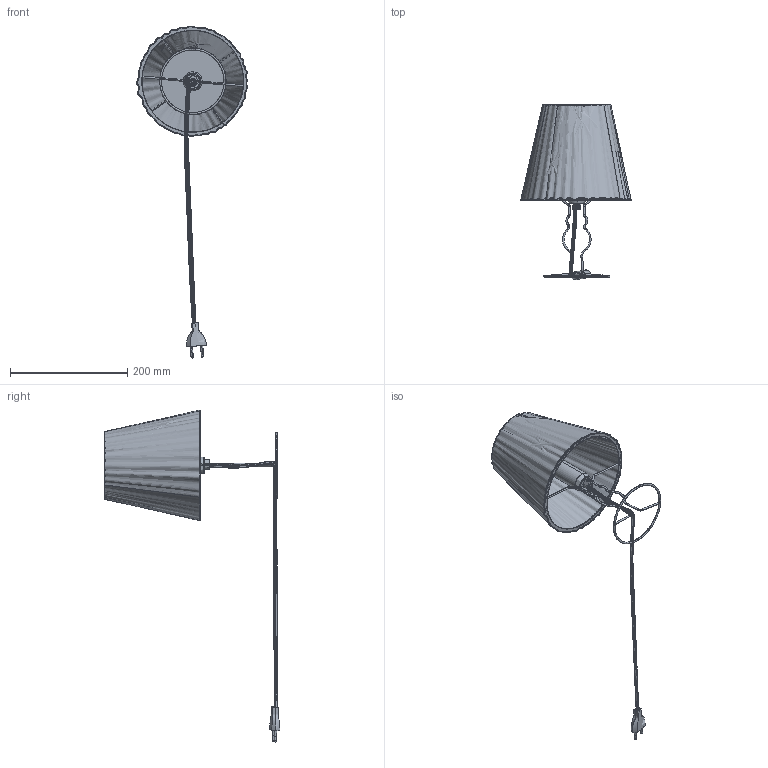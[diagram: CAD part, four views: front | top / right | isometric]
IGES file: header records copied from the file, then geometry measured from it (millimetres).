
Start section: SolidWorks IGES file using analytic representation for surfaces
Global section: file name: E:\_DESIGN\NOWOŒCI\FORM\Form_biurkowa_9671\Form 9671.IGS; native system: SolidWorks 2016; preprocessor: SolidWorks 2016; author: Asia; date: 170324.144845; units: millimetre
Bounding box: 188.79 x 299.8 x 567.37 mm (x, y, z)
Surface area: 263895 mm2 (no closed solid volume)
Topology: 0 solids, 0 shells, 830 faces, 10527 edges, 10523 vertices
Faces by surface type: revolution 518, bspline 312
